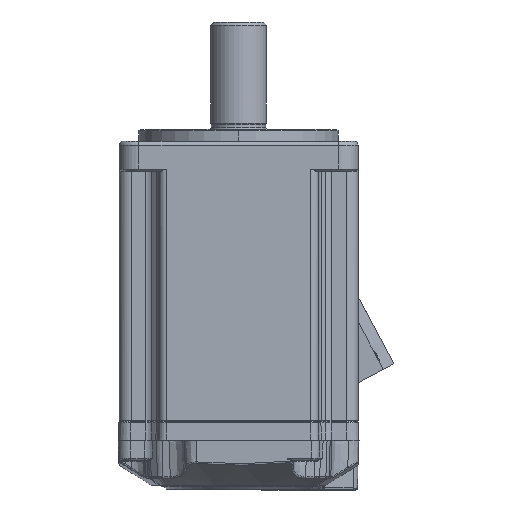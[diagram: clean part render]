
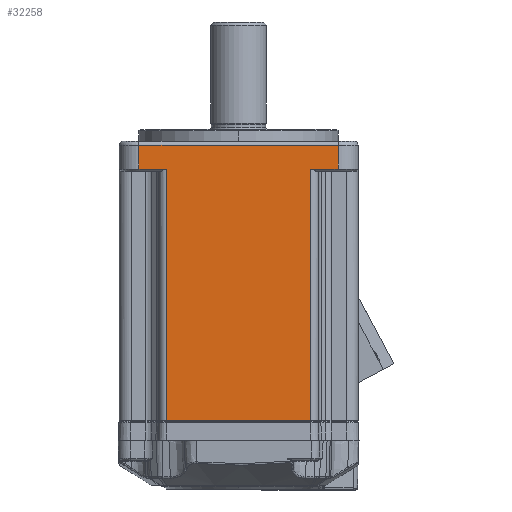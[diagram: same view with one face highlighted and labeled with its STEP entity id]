
A CAD part, top view. The second image highlights one B-rep face of the part: STEP entity #32258.
In plain terms, the highlighted planar face has unit normal (0, 0, 1).
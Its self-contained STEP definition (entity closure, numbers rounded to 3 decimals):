
#4062=DIRECTION('',(0.,1.,0.));
#4063=VECTOR('',#4062,6.);
#4064=CARTESIAN_POINT('',(25.,-7.,30.));
#4065=LINE('',#4064,#4063);
#4134=DIRECTION('',(1.,0.,0.));
#4135=VECTOR('',#4134,6.965);
#4136=CARTESIAN_POINT('',(18.035,-7.,30.));
#4137=LINE('',#4136,#4135);
#4138=DIRECTION('',(-1.,0.,0.));
#4139=VECTOR('',#4138,36.069);
#4140=CARTESIAN_POINT('',(18.035,-70.1,30.));
#4141=LINE('',#4140,#4139);
#4142=DIRECTION('',(0.,1.,0.));
#4143=VECTOR('',#4142,63.1);
#4144=CARTESIAN_POINT('',(18.035,-70.1,30.));
#4145=LINE('',#4144,#4143);
#4203=DIRECTION('',(0.,-1.,0.));
#4204=VECTOR('',#4203,63.1);
#4205=CARTESIAN_POINT('',(-18.035,-7.,
30.));
#4206=LINE('',#4205,#4204);
#4305=DIRECTION('',(-1.,0.,0.));
#4306=VECTOR('',#4305,50.);
#4307=CARTESIAN_POINT('',(25.,-1.,30.));
#4308=LINE('',#4307,#4306);
#4313=DIRECTION('',(0.,-1.,0.));
#4314=VECTOR('',#4313,6.);
#4315=CARTESIAN_POINT('',(-25.,-1.,30.));
#4316=LINE('',#4315,#4314);
#4330=DIRECTION('',(1.,0.,0.));
#4331=VECTOR('',#4330,6.965);
#4332=CARTESIAN_POINT('',(-25.,-7.,
30.));
#4333=LINE('',#4332,#4331);
#24430=CARTESIAN_POINT('',(-25.,-1.,30.));
#24431=VERTEX_POINT('',#24430);
#24432=CARTESIAN_POINT('',(25.,-1.,30.));
#24433=VERTEX_POINT('',#24432);
#24434=CARTESIAN_POINT('',(25.,-7.,30.));
#24435=VERTEX_POINT('',#24434);
#24436=CARTESIAN_POINT('',(18.035,-7.,
30.));
#24437=VERTEX_POINT('',#24436);
#24438=CARTESIAN_POINT('',(18.035,-70.1,30.));
#24439=VERTEX_POINT('',#24438);
#24440=CARTESIAN_POINT('',(-18.035,-70.1,30.));
#24441=VERTEX_POINT('',#24440);
#24442=CARTESIAN_POINT('',(-18.035,-7.,
30.));
#24443=VERTEX_POINT('',#24442);
#24444=CARTESIAN_POINT('',(-25.,-7.,
30.));
#24445=VERTEX_POINT('',#24444);
#32238=CARTESIAN_POINT('',(-30.,0.,30.));
#32239=DIRECTION('',(0.,0.,1.));
#32240=DIRECTION('',(1.,0.,0.));
#32241=AXIS2_PLACEMENT_3D('',#32238,#32239,#32240);
#32242=PLANE('',#32241);
#32243=ORIENTED_EDGE('',*,*,#32229,.F.);
#32245=ORIENTED_EDGE('',*,*,#32244,.F.);
#32246=ORIENTED_EDGE('',*,*,#31817,.T.);
#32248=ORIENTED_EDGE('',*,*,#32247,.F.);
#32250=ORIENTED_EDGE('',*,*,#32249,.F.);
#32252=ORIENTED_EDGE('',*,*,#32251,.F.);
#32254=ORIENTED_EDGE('',*,*,#32253,.F.);
#32255=ORIENTED_EDGE('',*,*,#32169,.F.);
#32256=EDGE_LOOP('',(#32243,#32245,#32246,#32248,#32250,#32252,#32254,#32255));
#32257=FACE_OUTER_BOUND('',#32256,.F.);
#32258=ADVANCED_FACE('',(#32257),#32242,.T.);
#31817=EDGE_CURVE('',#24439,#24441,#4141,.T.);
#32169=EDGE_CURVE('',#24435,#24433,#4065,.T.);
#32229=EDGE_CURVE('',#24437,#24435,#4137,.T.);
#32244=EDGE_CURVE('',#24439,#24437,#4145,.T.);
#32247=EDGE_CURVE('',#24443,#24441,#4206,.T.);
#32249=EDGE_CURVE('',#24445,#24443,#4333,.T.);
#32251=EDGE_CURVE('',#24431,#24445,#4316,.T.);
#32253=EDGE_CURVE('',#24433,#24431,#4308,.T.);
